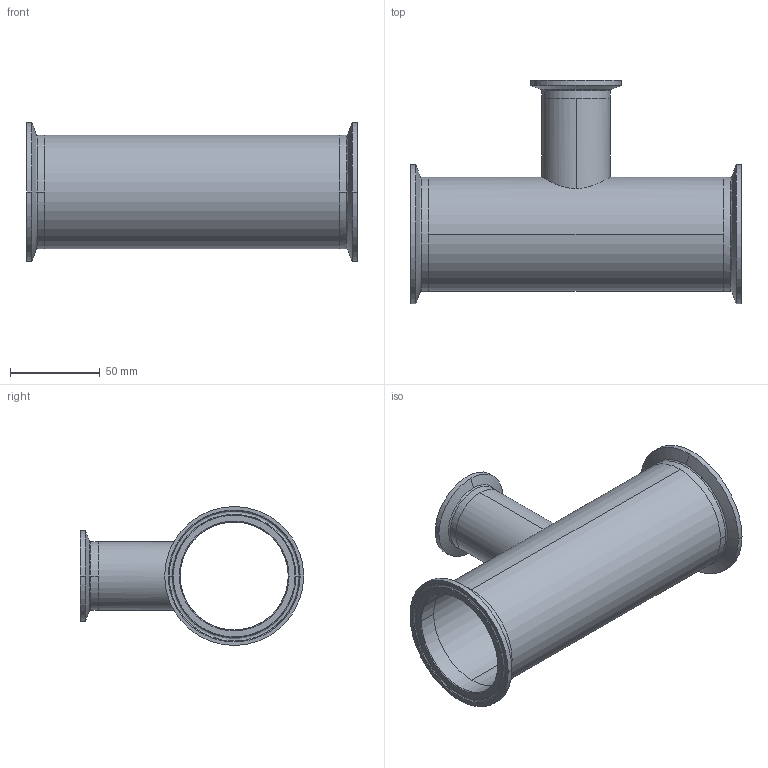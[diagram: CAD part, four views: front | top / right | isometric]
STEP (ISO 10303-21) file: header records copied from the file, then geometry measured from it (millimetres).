
FILE_DESCRIPTION (( 'STEP AP214' ), '1' );
FILE_NAME ('TEG7R6L2.5x1.5-...STEP', '2016-05-24T06:54:52', ( 'eran' ), ( '' ), 'SwSTEP 2.0', 'SolidWorks 2016', '' );
FILE_SCHEMA (( 'AUTOMOTIVE_DESIGN' ));
Length unit declared in the file: millimetre
Products named in the file (1): TEG7R6L2.5x1.5-..
Bounding box: 184.2 x 124.4 x 77.39 mm (x, y, z)
Volume: 83256.9 mm3; surface area: 92423.4 mm2
Topology: 4 solids, 4 shells, 86 faces, 214 edges, 140 vertices
Faces by surface type: bspline 30, cylinder 26, cone 18, plane 12
Entity records: 4878 total; most frequent: CARTESIAN_POINT 2763, DIRECTION 454, ORIENTED_EDGE 428, EDGE_CURVE 214, AXIS2_PLACEMENT_3D 205, CIRCLE 148, VERTEX_POINT 140, EDGE_LOOP 100
